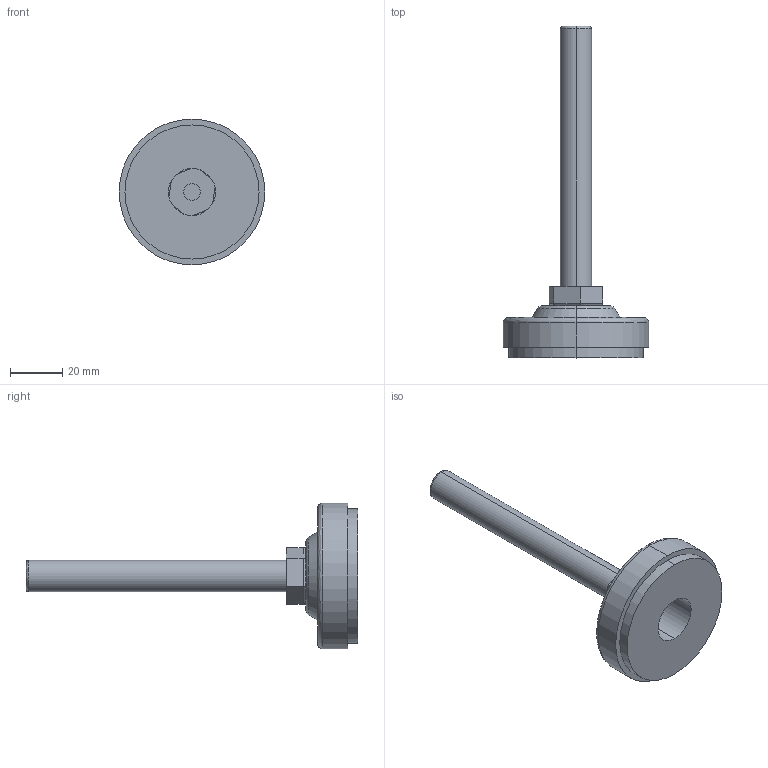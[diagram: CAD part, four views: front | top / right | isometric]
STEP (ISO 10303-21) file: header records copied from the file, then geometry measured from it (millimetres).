
FILE_DESCRIPTION (( 'STEP AP203' ), '1' );
FILE_NAME ('DY-D5512100.STEP', '2022-03-08T03:09:47', ( '' ), ( '' ), 'SwSTEP 2.0', 'SolidWorks 2017', '' );
FILE_SCHEMA (( 'CONFIG_CONTROL_DESIGN' ));
Length unit declared in the file: millimetre
Products named in the file (1): DY-D5512100
Bounding box: 56 x 127.5 x 56 mm (x, y, z)
Surface area: 12966.9 mm2 (no closed solid volume)
Topology: 0 solids, 2 shells, 34 faces, 74 edges, 46 vertices
Faces by surface type: cylinder 14, plane 12, bspline 6, cone 2
Entity records: 1256 total; most frequent: CARTESIAN_POINT 473, DIRECTION 148, ORIENTED_EDGE 138, EDGE_CURVE 74, AXIS2_PLACEMENT_3D 57, VERTEX_POINT 46, EDGE_LOOP 39, LINE 34
